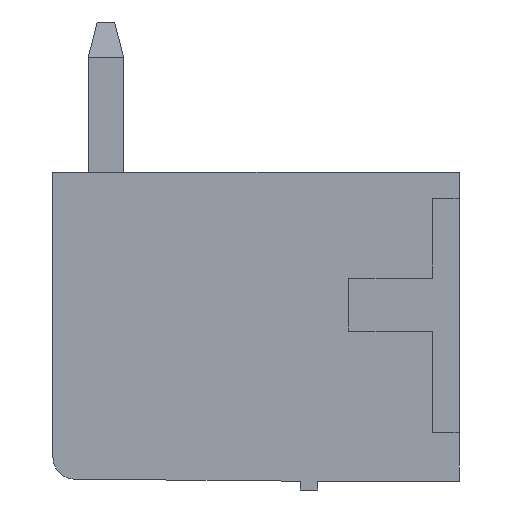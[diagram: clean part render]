
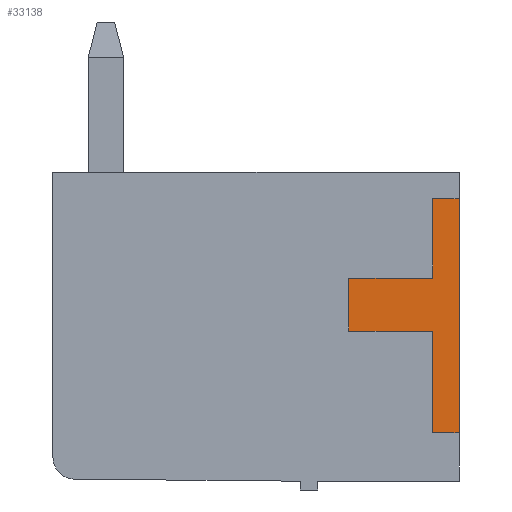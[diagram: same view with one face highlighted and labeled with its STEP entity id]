
A CAD part, left-side view. The second image highlights one B-rep face of the part: STEP entity #33138.
In plain terms, the highlighted planar face has unit normal (-1, 0, 0).
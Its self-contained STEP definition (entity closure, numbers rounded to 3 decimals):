
#2372 = PLANE('',#2373);
#2373 = AXIS2_PLACEMENT_3D('',#2374,#2375,#2376);
#2374 = CARTESIAN_POINT('',(0.,0.,7.));
#2375 = DIRECTION('',(0.,-1.,0.));
#2376 = DIRECTION('',(0.,0.,-1.));
#2936 = VERTEX_POINT('',#2937);
#2937 = CARTESIAN_POINT('',(-0.2,0.,1.1));
#2951 = PLANE('',#2952);
#2952 = AXIS2_PLACEMENT_3D('',#2953,#2954,#2955);
#2953 = CARTESIAN_POINT('',(0.,0.6,1.1));
#2954 = DIRECTION('',(0.,0.,-1.));
#2955 = DIRECTION('',(0.,-1.,0.));
#2963 = EDGE_CURVE('',#2936,#2964,#2966,.T.);
#2964 = VERTEX_POINT('',#2965);
#2965 = CARTESIAN_POINT('',(-0.2,0.,6.4));
#2966 = SURFACE_CURVE('',#2967,(#2971,#2978),.PCURVE_S1.);
#2967 = LINE('',#2968,#2969);
#2968 = CARTESIAN_POINT('',(-0.2,0.,1.1));
#2969 = VECTOR('',#2970,1.);
#2970 = DIRECTION('',(0.,0.,1.));
#2971 = PCURVE('',#2372,#2972);
#2972 = DEFINITIONAL_REPRESENTATION('',(#2973),#2977);
#2973 = LINE('',#2974,#2975);
#2974 = CARTESIAN_POINT('',(5.9,-0.2));
#2975 = VECTOR('',#2976,1.);
#2976 = DIRECTION('',(-1.,0.));
#2977 = ( GEOMETRIC_REPRESENTATION_CONTEXT(2) 
PARAMETRIC_REPRESENTATION_CONTEXT() REPRESENTATION_CONTEXT('2D SPACE',''
  ) );
#2978 = PCURVE('',#2979,#2984);
#2979 = PLANE('',#2980);
#2980 = AXIS2_PLACEMENT_3D('',#2981,#2982,#2983);
#2981 = CARTESIAN_POINT('',(-0.2,0.,0.));
#2982 = DIRECTION('',(-1.,0.,0.));
#2983 = DIRECTION('',(0.,0.,1.));
#2984 = DEFINITIONAL_REPRESENTATION('',(#2985),#2989);
#2985 = LINE('',#2986,#2987);
#2986 = CARTESIAN_POINT('',(1.1,0.));
#2987 = VECTOR('',#2988,1.);
#2988 = DIRECTION('',(1.,0.));
#2989 = ( GEOMETRIC_REPRESENTATION_CONTEXT(2) 
PARAMETRIC_REPRESENTATION_CONTEXT() REPRESENTATION_CONTEXT('2D SPACE',''
  ) );
#3007 = PLANE('',#3008);
#3008 = AXIS2_PLACEMENT_3D('',#3009,#3010,#3011);
#3009 = CARTESIAN_POINT('',(0.,0.,6.4));
#3010 = DIRECTION('',(0.,0.,1.));
#3011 = DIRECTION('',(0.,1.,0.));
#14528 = PLANE('',#14529);
#14529 = AXIS2_PLACEMENT_3D('',#14530,#14531,#14532);
#14530 = CARTESIAN_POINT('',(0.,0.6,6.4));
#14531 = DIRECTION('',(0.,1.,0.));
#14532 = DIRECTION('',(0.,0.,-1.));
#14556 = PLANE('',#14557);
#14557 = AXIS2_PLACEMENT_3D('',#14558,#14559,#14560);
#14558 = CARTESIAN_POINT('',(0.,0.6,4.6));
#14559 = DIRECTION('',(0.,0.,1.));
#14560 = DIRECTION('',(0.,1.,0.));
#14584 = PLANE('',#14585);
#14585 = AXIS2_PLACEMENT_3D('',#14586,#14587,#14588);
#14586 = CARTESIAN_POINT('',(0.,2.5,4.6));
#14587 = DIRECTION('',(0.,1.,0.));
#14588 = DIRECTION('',(0.,0.,-1.));
#14612 = PLANE('',#14613);
#14613 = AXIS2_PLACEMENT_3D('',#14614,#14615,#14616);
#14614 = CARTESIAN_POINT('',(0.,2.5,3.4));
#14615 = DIRECTION('',(0.,0.,-1.));
#14616 = DIRECTION('',(0.,-1.,0.));
#14640 = PLANE('',#14641);
#14641 = AXIS2_PLACEMENT_3D('',#14642,#14643,#14644);
#14642 = CARTESIAN_POINT('',(0.,0.6,3.4));
#14643 = DIRECTION('',(0.,1.,0.));
#14644 = DIRECTION('',(0.,0.,-1.));
#33095 = EDGE_CURVE('',#2964,#33096,#33098,.T.);
#33096 = VERTEX_POINT('',#33097);
#33097 = CARTESIAN_POINT('',(-0.2,0.6,6.4));
#33098 = SURFACE_CURVE('',#33099,(#33103,#33110),.PCURVE_S1.);
#33099 = LINE('',#33100,#33101);
#33100 = CARTESIAN_POINT('',(-0.2,0.,6.4));
#33101 = VECTOR('',#33102,1.);
#33102 = DIRECTION('',(0.,1.,0.));
#33103 = PCURVE('',#3007,#33104);
#33104 = DEFINITIONAL_REPRESENTATION('',(#33105),#33109);
#33105 = LINE('',#33106,#33107);
#33106 = CARTESIAN_POINT('',(0.,0.2));
#33107 = VECTOR('',#33108,1.);
#33108 = DIRECTION('',(1.,0.));
#33109 = ( GEOMETRIC_REPRESENTATION_CONTEXT(2) 
PARAMETRIC_REPRESENTATION_CONTEXT() REPRESENTATION_CONTEXT('2D SPACE',''
  ) );
#33110 = PCURVE('',#2979,#33111);
#33111 = DEFINITIONAL_REPRESENTATION('',(#33112),#33116);
#33112 = LINE('',#33113,#33114);
#33113 = CARTESIAN_POINT('',(6.4,0.));
#33114 = VECTOR('',#33115,1.);
#33115 = DIRECTION('',(0.,1.));
#33116 = ( GEOMETRIC_REPRESENTATION_CONTEXT(2) 
PARAMETRIC_REPRESENTATION_CONTEXT() REPRESENTATION_CONTEXT('2D SPACE',''
  ) );
#33138 = ADVANCED_FACE('',(#33139),#2979,.T.);
#33139 = FACE_BOUND('',#33140,.F.);
#33140 = EDGE_LOOP('',(#33141,#33142,#33143,#33166,#33189,#33212,#33235,
    #33258));
#33141 = ORIENTED_EDGE('',*,*,#33095,.F.);
#33142 = ORIENTED_EDGE('',*,*,#2963,.F.);
#33143 = ORIENTED_EDGE('',*,*,#33144,.F.);
#33144 = EDGE_CURVE('',#33145,#2936,#33147,.T.);
#33145 = VERTEX_POINT('',#33146);
#33146 = CARTESIAN_POINT('',(-0.2,0.6,1.1));
#33147 = SURFACE_CURVE('',#33148,(#33152,#33159),.PCURVE_S1.);
#33148 = LINE('',#33149,#33150);
#33149 = CARTESIAN_POINT('',(-0.2,0.6,1.1));
#33150 = VECTOR('',#33151,1.);
#33151 = DIRECTION('',(0.,-1.,0.));
#33152 = PCURVE('',#2979,#33153);
#33153 = DEFINITIONAL_REPRESENTATION('',(#33154),#33158);
#33154 = LINE('',#33155,#33156);
#33155 = CARTESIAN_POINT('',(1.1,0.6));
#33156 = VECTOR('',#33157,1.);
#33157 = DIRECTION('',(0.,-1.));
#33158 = ( GEOMETRIC_REPRESENTATION_CONTEXT(2) 
PARAMETRIC_REPRESENTATION_CONTEXT() REPRESENTATION_CONTEXT('2D SPACE',''
  ) );
#33159 = PCURVE('',#2951,#33160);
#33160 = DEFINITIONAL_REPRESENTATION('',(#33161),#33165);
#33161 = LINE('',#33162,#33163);
#33162 = CARTESIAN_POINT('',(0.,0.2));
#33163 = VECTOR('',#33164,1.);
#33164 = DIRECTION('',(1.,0.));
#33165 = ( GEOMETRIC_REPRESENTATION_CONTEXT(2) 
PARAMETRIC_REPRESENTATION_CONTEXT() REPRESENTATION_CONTEXT('2D SPACE',''
  ) );
#33166 = ORIENTED_EDGE('',*,*,#33167,.F.);
#33167 = EDGE_CURVE('',#33168,#33145,#33170,.T.);
#33168 = VERTEX_POINT('',#33169);
#33169 = CARTESIAN_POINT('',(-0.2,0.6,3.4));
#33170 = SURFACE_CURVE('',#33171,(#33175,#33182),.PCURVE_S1.);
#33171 = LINE('',#33172,#33173);
#33172 = CARTESIAN_POINT('',(-0.2,0.6,3.4));
#33173 = VECTOR('',#33174,1.);
#33174 = DIRECTION('',(0.,0.,-1.));
#33175 = PCURVE('',#2979,#33176);
#33176 = DEFINITIONAL_REPRESENTATION('',(#33177),#33181);
#33177 = LINE('',#33178,#33179);
#33178 = CARTESIAN_POINT('',(3.4,0.6));
#33179 = VECTOR('',#33180,1.);
#33180 = DIRECTION('',(-1.,0.));
#33181 = ( GEOMETRIC_REPRESENTATION_CONTEXT(2) 
PARAMETRIC_REPRESENTATION_CONTEXT() REPRESENTATION_CONTEXT('2D SPACE',''
  ) );
#33182 = PCURVE('',#14640,#33183);
#33183 = DEFINITIONAL_REPRESENTATION('',(#33184),#33188);
#33184 = LINE('',#33185,#33186);
#33185 = CARTESIAN_POINT('',(0.,0.2));
#33186 = VECTOR('',#33187,1.);
#33187 = DIRECTION('',(1.,0.));
#33188 = ( GEOMETRIC_REPRESENTATION_CONTEXT(2) 
PARAMETRIC_REPRESENTATION_CONTEXT() REPRESENTATION_CONTEXT('2D SPACE',''
  ) );
#33189 = ORIENTED_EDGE('',*,*,#33190,.F.);
#33190 = EDGE_CURVE('',#33191,#33168,#33193,.T.);
#33191 = VERTEX_POINT('',#33192);
#33192 = CARTESIAN_POINT('',(-0.2,2.5,3.4));
#33193 = SURFACE_CURVE('',#33194,(#33198,#33205),.PCURVE_S1.);
#33194 = LINE('',#33195,#33196);
#33195 = CARTESIAN_POINT('',(-0.2,2.5,3.4));
#33196 = VECTOR('',#33197,1.);
#33197 = DIRECTION('',(0.,-1.,0.));
#33198 = PCURVE('',#2979,#33199);
#33199 = DEFINITIONAL_REPRESENTATION('',(#33200),#33204);
#33200 = LINE('',#33201,#33202);
#33201 = CARTESIAN_POINT('',(3.4,2.5));
#33202 = VECTOR('',#33203,1.);
#33203 = DIRECTION('',(0.,-1.));
#33204 = ( GEOMETRIC_REPRESENTATION_CONTEXT(2) 
PARAMETRIC_REPRESENTATION_CONTEXT() REPRESENTATION_CONTEXT('2D SPACE',''
  ) );
#33205 = PCURVE('',#14612,#33206);
#33206 = DEFINITIONAL_REPRESENTATION('',(#33207),#33211);
#33207 = LINE('',#33208,#33209);
#33208 = CARTESIAN_POINT('',(0.,0.2));
#33209 = VECTOR('',#33210,1.);
#33210 = DIRECTION('',(1.,0.));
#33211 = ( GEOMETRIC_REPRESENTATION_CONTEXT(2) 
PARAMETRIC_REPRESENTATION_CONTEXT() REPRESENTATION_CONTEXT('2D SPACE',''
  ) );
#33212 = ORIENTED_EDGE('',*,*,#33213,.F.);
#33213 = EDGE_CURVE('',#33214,#33191,#33216,.T.);
#33214 = VERTEX_POINT('',#33215);
#33215 = CARTESIAN_POINT('',(-0.2,2.5,4.6));
#33216 = SURFACE_CURVE('',#33217,(#33221,#33228),.PCURVE_S1.);
#33217 = LINE('',#33218,#33219);
#33218 = CARTESIAN_POINT('',(-0.2,2.5,4.6));
#33219 = VECTOR('',#33220,1.);
#33220 = DIRECTION('',(0.,0.,-1.));
#33221 = PCURVE('',#2979,#33222);
#33222 = DEFINITIONAL_REPRESENTATION('',(#33223),#33227);
#33223 = LINE('',#33224,#33225);
#33224 = CARTESIAN_POINT('',(4.6,2.5));
#33225 = VECTOR('',#33226,1.);
#33226 = DIRECTION('',(-1.,0.));
#33227 = ( GEOMETRIC_REPRESENTATION_CONTEXT(2) 
PARAMETRIC_REPRESENTATION_CONTEXT() REPRESENTATION_CONTEXT('2D SPACE',''
  ) );
#33228 = PCURVE('',#14584,#33229);
#33229 = DEFINITIONAL_REPRESENTATION('',(#33230),#33234);
#33230 = LINE('',#33231,#33232);
#33231 = CARTESIAN_POINT('',(0.,0.2));
#33232 = VECTOR('',#33233,1.);
#33233 = DIRECTION('',(1.,0.));
#33234 = ( GEOMETRIC_REPRESENTATION_CONTEXT(2) 
PARAMETRIC_REPRESENTATION_CONTEXT() REPRESENTATION_CONTEXT('2D SPACE',''
  ) );
#33235 = ORIENTED_EDGE('',*,*,#33236,.F.);
#33236 = EDGE_CURVE('',#33237,#33214,#33239,.T.);
#33237 = VERTEX_POINT('',#33238);
#33238 = CARTESIAN_POINT('',(-0.2,0.6,4.6));
#33239 = SURFACE_CURVE('',#33240,(#33244,#33251),.PCURVE_S1.);
#33240 = LINE('',#33241,#33242);
#33241 = CARTESIAN_POINT('',(-0.2,0.6,4.6));
#33242 = VECTOR('',#33243,1.);
#33243 = DIRECTION('',(0.,1.,0.));
#33244 = PCURVE('',#2979,#33245);
#33245 = DEFINITIONAL_REPRESENTATION('',(#33246),#33250);
#33246 = LINE('',#33247,#33248);
#33247 = CARTESIAN_POINT('',(4.6,0.6));
#33248 = VECTOR('',#33249,1.);
#33249 = DIRECTION('',(0.,1.));
#33250 = ( GEOMETRIC_REPRESENTATION_CONTEXT(2) 
PARAMETRIC_REPRESENTATION_CONTEXT() REPRESENTATION_CONTEXT('2D SPACE',''
  ) );
#33251 = PCURVE('',#14556,#33252);
#33252 = DEFINITIONAL_REPRESENTATION('',(#33253),#33257);
#33253 = LINE('',#33254,#33255);
#33254 = CARTESIAN_POINT('',(0.,0.2));
#33255 = VECTOR('',#33256,1.);
#33256 = DIRECTION('',(1.,0.));
#33257 = ( GEOMETRIC_REPRESENTATION_CONTEXT(2) 
PARAMETRIC_REPRESENTATION_CONTEXT() REPRESENTATION_CONTEXT('2D SPACE',''
  ) );
#33258 = ORIENTED_EDGE('',*,*,#33259,.F.);
#33259 = EDGE_CURVE('',#33096,#33237,#33260,.T.);
#33260 = SURFACE_CURVE('',#33261,(#33265,#33272),.PCURVE_S1.);
#33261 = LINE('',#33262,#33263);
#33262 = CARTESIAN_POINT('',(-0.2,0.6,6.4));
#33263 = VECTOR('',#33264,1.);
#33264 = DIRECTION('',(0.,0.,-1.));
#33265 = PCURVE('',#2979,#33266);
#33266 = DEFINITIONAL_REPRESENTATION('',(#33267),#33271);
#33267 = LINE('',#33268,#33269);
#33268 = CARTESIAN_POINT('',(6.4,0.6));
#33269 = VECTOR('',#33270,1.);
#33270 = DIRECTION('',(-1.,0.));
#33271 = ( GEOMETRIC_REPRESENTATION_CONTEXT(2) 
PARAMETRIC_REPRESENTATION_CONTEXT() REPRESENTATION_CONTEXT('2D SPACE',''
  ) );
#33272 = PCURVE('',#14528,#33273);
#33273 = DEFINITIONAL_REPRESENTATION('',(#33274),#33278);
#33274 = LINE('',#33275,#33276);
#33275 = CARTESIAN_POINT('',(0.,0.2));
#33276 = VECTOR('',#33277,1.);
#33277 = DIRECTION('',(1.,0.));
#33278 = ( GEOMETRIC_REPRESENTATION_CONTEXT(2) 
PARAMETRIC_REPRESENTATION_CONTEXT() REPRESENTATION_CONTEXT('2D SPACE',''
  ) );
